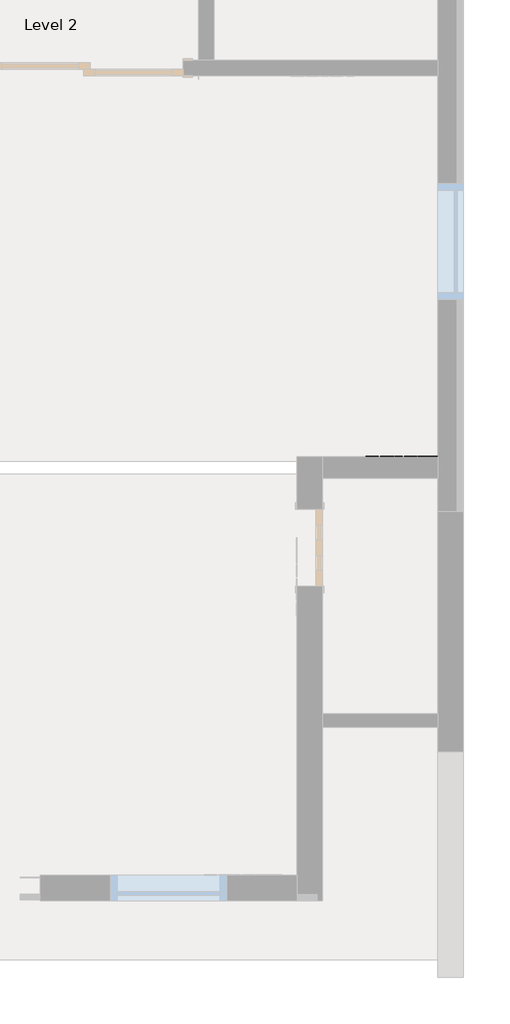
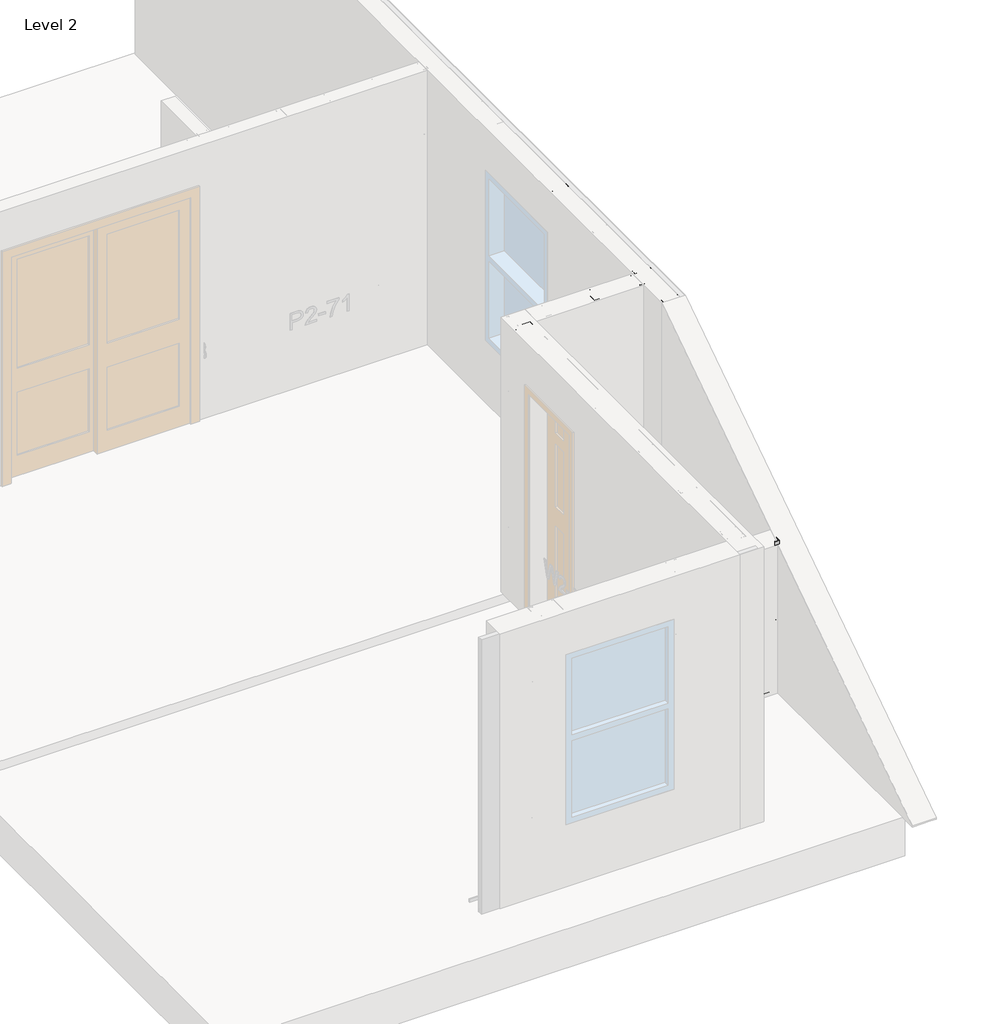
# One storey, part 23 of 46: 9 columns, 3 beams, 2 fasteners.
"""IFC4 building model written with IfcOpenShell, lengths in millimetres."""

from ifc_helpers import new_model, si_unit, point, frame, origin, place, context, project, spatial, circle_curve, ellipse_curve, trimmed, transform, mapped, element, save
from ifc_brep_helpers import plane_surface, extruded_surface, advanced_brep
from components import beam_350nf150_33_cdc529ae, beam_350nf150_33_c6ae7401, beam_550nf150_43_e6c4ef75, column_350nf150_33_f4fa3d8b, column_350nf150_33_2ad03762, column_550nf150_43_e978d052, panellabel_26702ed9, panellabel_6a08c189

model = new_model("IFC4")

# Units and contexts
model_context = context("Model", 3, world=origin())
ifc_project = project(units=[si_unit("LENGTHUNIT", "METRE", prefix="MILLI")], contexts=[model_context])

# Site, building, storey
site = spatial("IfcSite", under=ifc_project)
building = spatial("IfcBuilding", under=site)
storey = spatial("IfcBuildingStorey", under=building, Name="Level 2", Elevation=3060.7)

# Beams
placement = place(None, origin())
beam_350nf150_33_shape = beam_350nf150_33_cdc529ae(model_context)
element("IfcBeam", 1, ObjectType="BIMSF-SSMA-S : 350NF150-33", at=placement, inside=storey, context=model_context, shape_type="MappedRepresentation", body=[
    mapped(beam_350nf150_33_shape, transform((-3698.2100849, 4446.714721, 3994.15), x_axis=(1.0000000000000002, 0.0, 0.0), y_axis=(0.0, 0.0, -1.0000000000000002), z_axis=(0.0, 1.0000000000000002, 0.0))),
])
beam_350nf150_33_2_shape = beam_350nf150_33_c6ae7401(model_context)
element("IfcBeam", 2, ObjectType="BIMSF-SSMA-S : 350NF150-33", at=placement, inside=storey, context=model_context, shape_type="MappedRepresentation", body=[
    mapped(beam_350nf150_33_2_shape, transform((-3302.5257099, 4446.714721, 3076.575), x_axis=(1.0000000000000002, 0.0, 0.0), y_axis=(0.0, 0.0, -1.0000000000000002), z_axis=(0.0, 1.0000000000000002, 0.0))),
])
beam_550nf150_43_shape = beam_550nf150_43_e6c4ef75(model_context)
element("IfcBeam", 3, ObjectType="BIMSF-SSMA-S : 550NF150-43", at=placement, inside=storey, context=model_context, shape_type="MappedRepresentation", body=[
    mapped(beam_550nf150_43_shape, transform((-3768.0600849, 6454.902221, 3076.575), x_axis=(-1.0000000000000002, 0.0, 0.0), y_axis=(0.0, 0.0, -1.0000000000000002), z_axis=(0.0, -1.0000000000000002, 0.0))),
])

# Columns
element("IfcColumn", 4, ObjectType="BIMSF-SSMA-S-Column : 350NF150-33", at=placement, inside=storey, context=model_context, shape_type="AdvancedBrep", body=[
    advanced_brep(
    [(-3211.6413349, 4491.164721, 3061.5929687), (-3211.6413349, 4402.264721, 3061.5929687), (-3249.7413349, 4402.264721, 3061.5929687), (-3249.7413349, 4407.9222367, 3061.5929687), (-3248.8590191, 4407.9222367, 3061.5929687), (-3248.8590191, 4403.1470367, 3061.5929687), (-3212.5236507, 4403.1470367, 3061.5929687), (-3212.5236507, 4490.2824052, 3061.5929687), (-3248.8590191, 4490.2824052, 3061.5929687), (-3248.8590191, 4485.5072052, 3061.5929687), (-3249.7413349, 4485.5072052, 3061.5929687), (-3249.7413349, 4491.164721, 3061.5929687), (-3211.6413349, 4491.164721, 4427.5338969), (-3211.6413349, 4402.264721, 4427.5338969), (-3211.6413349, 4434.014721, 3671.1929687), (-3211.6413349, 4459.414721, 3671.1929687), (-3249.7413349, 4402.264721, 4427.5338969), (-3249.7413349, 4407.9222367, 4427.5338969), (-3248.8590191, 4407.9222367, 4427.5338969), (-3248.8590191, 4403.1470367, 4427.5338969), (-3212.5236507, 4403.1470367, 4427.5338969), (-3212.5236507, 4490.2824052, 4427.5338969), (-3212.5236507, 4459.414721, 3671.1929687), (-3212.5236507, 4434.014721, 3671.1929687), (-3248.8590191, 4490.2824052, 4427.5338969), (-3248.8590191, 4485.5072052, 4427.5338969), (-3249.7413349, 4485.5072052, 4427.5338969), (-3249.7413349, 4491.164721, 4427.5338969)],
    [
        (0, 1),
        (1, 2),
        (2, 3),
        (3, 4),
        (4, 5),
        (5, 6),
        (6, 7),
        (7, 8),
        (8, 9),
        (9, 10),
        (10, 11),
        (11, 0),
        (0, 12),
        (12, 13),
        (13, 1),
        (14, 15, circle_curve(frame((-3211.6413349, 4446.714721, 3671.1929687), z_axis=(-1.0, 0.0, 0.0), x_axis=(0.0, -1.0, 0.0)), 12.7)),
        (15, 14, circle_curve(frame((-3211.6413349, 4446.714721, 3671.1929687), z_axis=(-1.0, 0.0, 0.0), x_axis=(0.0, -1.0, 0.0)), 12.7)),
        (13, 16),
        (16, 2),
        (16, 17),
        (17, 3),
        (17, 18),
        (18, 4),
        (18, 19),
        (19, 5),
        (19, 20),
        (20, 6),
        (20, 21),
        (21, 7),
        (22, 23, circle_curve(frame((-3212.5236507, 4446.714721, 3671.1929687), z_axis=(1.0, 0.0, 0.0), x_axis=(0.0, -1.0, 0.0)), 12.7)),
        (23, 22, circle_curve(frame((-3212.5236507, 4446.714721, 3671.1929688), z_axis=(1.0, 0.0, 0.0), x_axis=(0.0, -1.0, 0.0)), 12.7)),
        (21, 24),
        (24, 8),
        (24, 25),
        (25, 9),
        (25, 26),
        (26, 10),
        (26, 27),
        (27, 11),
        (27, 12),
        (22, 15),
        (14, 23),
    ],
    [
        plane_surface(frame((-3211.6413349, 4491.164721, 3061.5929687), z_axis=(0.0, 0.0, -1.0), x_axis=(1.0, 0.0, 0.0))),
        plane_surface(frame((-3211.6413349, 4402.264721, 4427.5338969), z_axis=(1.0, 0.0, 0.0), x_axis=(0.0, 0.0, -1.0))),
        plane_surface(frame((-3249.7413349, 4402.264721, 4427.5338969), z_axis=(0.0, -1.0, 0.0), x_axis=(0.0, 0.0, -1.0))),
        plane_surface(frame((-3249.7413349, 4407.9222367, 4427.5338969), z_axis=(-1.0, 0.0, 0.0), x_axis=(0.0, 0.0, -1.0))),
        plane_surface(frame((-3248.8590191, 4407.9222367, 4427.5338969), z_axis=(0.0, 1.0, 0.0), x_axis=(0.0, 0.0, -1.0))),
        plane_surface(frame((-3248.8590191, 4403.1470367, 4427.5338969), z_axis=(1.0, 0.0, 0.0), x_axis=(0.0, 0.0, -1.0))),
        plane_surface(frame((-3212.5236507, 4403.1470367, 4427.5338969), z_axis=(0.0, 1.0, 0.0), x_axis=(0.0, 0.0, -1.0))),
        plane_surface(frame((-3212.5236507, 4490.2824052, 4427.5338969), z_axis=(-1.0, 0.0, 0.0), x_axis=(0.0, 0.0, -1.0))),
        plane_surface(frame((-3248.8590191, 4490.2824052, 4427.5338969), z_axis=(0.0, -1.0, 0.0), x_axis=(0.0, 0.0, -1.0))),
        plane_surface(frame((-3248.8590191, 4485.5072052, 4427.5338969), z_axis=(1.0, 0.0, 0.0), x_axis=(0.0, 0.0, -1.0))),
        plane_surface(frame((-3249.7413349, 4485.5072052, 4427.5338969), z_axis=(0.0, -1.0, 0.0), x_axis=(0.0, 0.0, -1.0))),
        plane_surface(frame((-3249.7413349, 4491.164721, 4427.5338969), z_axis=(-1.0, 0.0, 0.0), x_axis=(0.0, 0.0, -1.0))),
        plane_surface(frame((-3211.6413349, 4491.164721, 4427.5338969), z_axis=(0.0, 1.0, 0.0), x_axis=(0.0, 0.0, -1.0))),
        plane_surface(frame((-3211.6413349, 4491.164721, 4427.5338969), z_axis=(0.0, 0.0, 1.0), x_axis=(-1.0, 0.0, 0.0))),
        extruded_surface(trimmed(ellipse_curve(frame((-4596.632263, 4446.714721, 3671.1929688), z_axis=(1.0, 0.0, 0.0), x_axis=(0.0, -1.0, 0.0)), 12.7, 12.7), [point((-4596.632263, 4459.414721, 3671.1929688))], [point((-4596.632263, 4434.014721, 3671.1929688))], True, "CARTESIAN"), (-2731.8818562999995, 0.0, 0.0), 2731.8818562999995),
        extruded_surface(trimmed(ellipse_curve(frame((-4596.632263, 4446.714721, 3671.1929688), z_axis=(1.0, 0.0, 0.0), x_axis=(0.0, -1.0, 0.0)), 12.7, 12.7), [point((-4596.632263, 4434.014721, 3671.1929688))], [point((-4596.632263, 4459.414721, 3671.1929688))], True, "CARTESIAN"), (-2731.8818562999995, 0.0, 0.0), 2731.8818562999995),
    ],
    [
        (0, [[1, 2, 3, 4, 5, 6, 7, 8, 9, 10, 11, 12]]),
        (1, [[-1, 13, 14, 15], [16, 17]]),
        (2, [[-2, -15, 18, 19]]),
        (3, [[-3, -19, 20, 21]]),
        (4, [[-4, -21, 22, 23]]),
        (5, [[-5, -23, 24, 25]]),
        (6, [[-6, -25, 26, 27]]),
        (7, [[-7, -27, 28, 29], [30, 31]]),
        (8, [[-8, -29, 32, 33]]),
        (9, [[-9, -33, 34, 35]]),
        (10, [[-10, -35, 36, 37]]),
        (11, [[-11, -37, 38, 39]]),
        (12, [[-12, -39, 40, -13]]),
        (13, [[-14, -40, -38, -36, -34, -32, -28, -26, -24, -22, -20, -18]]),
        (14, [[41, -16, 42, -30]]),
        (15, [[-41, -31, -42, -17]]),
    ],
),
])
column_350nf150_33_shape = column_350nf150_33_f4fa3d8b(model_context)
element("IfcColumn", 5, ObjectType="BIMSF-SSMA-S-Column : 350NF150-33", at=placement, inside=storey, context=model_context, shape_type="MappedRepresentation", body=[
    mapped(column_350nf150_33_shape, transform((-3381.4122971, 4457.4518459, 0.0), x_axis=(1.0, 0.0, 0.0), y_axis=(0.0, 1.0, 0.0), z_axis=(0.0, 0.0, 1.0))),
])
column_350nf150_33_2_shape = column_350nf150_33_2ad03762(model_context)
element("IfcColumn", 6, ObjectType="BIMSF-SSMA-S-Column : 350NF150-33", at=placement, inside=storey, context=model_context, shape_type="MappedRepresentation", body=[
    mapped(column_350nf150_33_2_shape, transform((-3785.4310471, 4457.4518459, 0.0), x_axis=(1.0, 0.0, 0.0), y_axis=(0.0, 1.0, 0.0), z_axis=(0.0, 0.0, 1.0))),
])
element("IfcColumn", 7, ObjectType="BIMSF-SSMA-S-Column : 550NF150-43", at=placement, inside=storey, context=model_context, shape_type="AdvancedBrep", body=[
    advanced_brep(
    [(-3211.6413349, 6524.752221, 3061.5929687), (-3211.6413349, 6385.052221, 3061.5929687), (-3249.7413349, 6385.052221, 3061.5929687), (-3249.7413349, 6390.9771052, 3061.5929687), (-3248.5916507, 6390.9771052, 3061.5929687), (-3248.5916507, 6386.2019052, 3061.5929687), (-3212.7910191, 6386.2019052, 3061.5929687), (-3212.7910191, 6523.6025367, 3061.5929687), (-3248.5916507, 6523.6025367, 3061.5929687), (-3248.5916507, 6518.8273367, 3061.5929687), (-3249.7413349, 6518.8273367, 3061.5929687), (-3249.7413349, 6524.752221, 3061.5929687), (-3211.6413349, 6524.752221, 5523.6070313), (-3211.6413349, 6385.052221, 5523.6070313), (-3211.6413349, 6442.202221, 3671.1929688), (-3211.6413349, 6467.602221, 3671.1929688), (-3211.6413349, 6442.202221, 4890.3929687), (-3211.6413349, 6467.602221, 4890.3929687), (-3249.7413349, 6385.052221, 5523.6070313), (-3249.7413349, 6390.9771052, 5523.6070313), (-3248.5916507, 6390.9771052, 5523.6070313), (-3248.5916507, 6386.2019052, 5523.6070313), (-3212.7910191, 6386.2019052, 5523.6070313), (-3212.7910191, 6523.6025367, 5523.6070313), (-3212.7910191, 6467.602221, 3671.1929687), (-3212.7910191, 6442.202221, 3671.1929688), (-3212.7910191, 6467.602221, 4890.3929687), (-3212.7910191, 6442.202221, 4890.3929687), (-3248.5916507, 6523.6025367, 5523.6070313), (-3248.5916507, 6518.8273367, 5523.6070313), (-3249.7413349, 6518.8273367, 5523.6070313), (-3249.7413349, 6524.752221, 5523.6070313)],
    [
        (0, 1),
        (1, 2),
        (2, 3),
        (3, 4),
        (4, 5),
        (5, 6),
        (6, 7),
        (7, 8),
        (8, 9),
        (9, 10),
        (10, 11),
        (11, 0),
        (0, 12),
        (12, 13),
        (13, 1),
        (14, 15, circle_curve(frame((-3211.6413349, 6454.902221, 3671.1929687), z_axis=(-1.0, 0.0, 0.0), x_axis=(0.0, -1.0, 0.0)), 12.7)),
        (15, 14, circle_curve(frame((-3211.6413349, 6454.902221, 3671.1929688), z_axis=(-1.0, 0.0, 0.0), x_axis=(0.0, -1.0, 0.0)), 12.7)),
        (16, 17, circle_curve(frame((-3211.6413349, 6454.902221, 4890.3929687), z_axis=(-1.0, 0.0, 0.0), x_axis=(0.0, -1.0, 0.0)), 12.7)),
        (17, 16, circle_curve(frame((-3211.6413349, 6454.902221, 4890.3929687), z_axis=(-1.0, 0.0, 0.0), x_axis=(0.0, -1.0, 0.0)), 12.7)),
        (13, 18),
        (18, 2),
        (18, 19),
        (19, 3),
        (19, 20),
        (20, 4),
        (20, 21),
        (21, 5),
        (21, 22),
        (22, 6),
        (22, 23),
        (23, 7),
        (24, 25, circle_curve(frame((-3212.7910191, 6454.902221, 3671.1929687), z_axis=(1.0, 0.0, 0.0), x_axis=(0.0, -1.0, 0.0)), 12.7)),
        (25, 24, circle_curve(frame((-3212.7910191, 6454.902221, 3671.1929687), z_axis=(1.0, 0.0, 0.0), x_axis=(0.0, -1.0, 0.0)), 12.7)),
        (26, 27, circle_curve(frame((-3212.7910191, 6454.902221, 4890.3929687), z_axis=(1.0, 0.0, 0.0), x_axis=(0.0, -1.0, 0.0)), 12.7)),
        (27, 26, circle_curve(frame((-3212.7910191, 6454.902221, 4890.3929687), z_axis=(1.0, 0.0, 0.0), x_axis=(0.0, -1.0, 0.0)), 12.7)),
        (23, 28),
        (28, 8),
        (28, 29),
        (29, 9),
        (29, 30),
        (30, 10),
        (30, 31),
        (31, 11),
        (31, 12),
        (24, 15),
        (14, 25),
        (26, 17),
        (16, 27),
    ],
    [
        plane_surface(frame((-3211.6413349, 6524.752221, 3061.5929687), z_axis=(0.0, 0.0, -1.0), x_axis=(1.0, 0.0, 0.0))),
        plane_surface(frame((-3211.6413349, 6385.052221, 5523.6070313), z_axis=(1.0, 0.0, 0.0), x_axis=(0.0, 0.0, -1.0))),
        plane_surface(frame((-3249.7413349, 6385.052221, 5523.6070313), z_axis=(0.0, -1.0, 0.0), x_axis=(0.0, 0.0, -1.0))),
        plane_surface(frame((-3249.7413349, 6390.9771052, 5523.6070313), z_axis=(-1.0, 0.0, 0.0), x_axis=(0.0, 0.0, -1.0))),
        plane_surface(frame((-3248.5916507, 6390.9771052, 5523.6070313), z_axis=(0.0, 1.0, 0.0), x_axis=(0.0, 0.0, -1.0))),
        plane_surface(frame((-3248.5916507, 6386.2019052, 5523.6070313), z_axis=(1.0, 0.0, 0.0), x_axis=(0.0, 0.0, -1.0))),
        plane_surface(frame((-3212.7910191, 6386.2019052, 5523.6070313), z_axis=(0.0, 1.0, 0.0), x_axis=(0.0, 0.0, -1.0))),
        plane_surface(frame((-3212.7910191, 6523.6025367, 5523.6070313), z_axis=(-1.0, 0.0, 0.0), x_axis=(0.0, 0.0, -1.0))),
        plane_surface(frame((-3248.5916507, 6523.6025367, 5523.6070313), z_axis=(0.0, -1.0, 0.0), x_axis=(0.0, 0.0, -1.0))),
        plane_surface(frame((-3248.5916507, 6518.8273367, 5523.6070313), z_axis=(1.0, 0.0, 0.0), x_axis=(0.0, 0.0, -1.0))),
        plane_surface(frame((-3249.7413349, 6518.8273367, 5523.6070313), z_axis=(0.0, -1.0, 0.0), x_axis=(0.0, 0.0, -1.0))),
        plane_surface(frame((-3249.7413349, 6524.752221, 5523.6070313), z_axis=(-1.0, 0.0, 0.0), x_axis=(0.0, 0.0, -1.0))),
        plane_surface(frame((-3211.6413349, 6524.752221, 5523.6070313), z_axis=(0.0, 1.0, 0.0), x_axis=(0.0, 0.0, -1.0))),
        plane_surface(frame((-3211.6413349, 6524.752221, 5523.6070313), z_axis=(0.0, 0.0, 1.0), x_axis=(-1.0, 0.0, 0.0))),
        extruded_surface(trimmed(ellipse_curve(frame((-5692.7053974, 6454.902221, 3671.1929688), z_axis=(1.0, 0.0, 0.0), x_axis=(0.0, -1.0, 0.0)), 12.7, 12.7), [point((-5692.7053974, 6467.602221, 3671.1929688))], [point((-5692.7053974, 6442.202221, 3671.1929688))], True, "CARTESIAN"), (-4924.028125, 0.0, 0.0), 4924.028125),
        extruded_surface(trimmed(ellipse_curve(frame((-5692.7053974, 6454.902221, 3671.1929688), z_axis=(1.0, 0.0, 0.0), x_axis=(0.0, -1.0, 0.0)), 12.7, 12.7), [point((-5692.7053974, 6442.202221, 3671.1929688))], [point((-5692.7053974, 6467.602221, 3671.1929688))], True, "CARTESIAN"), (-4924.028125, 0.0, 0.0), 4924.028125),
        extruded_surface(trimmed(ellipse_curve(frame((-5692.7053974, 6454.902221, 4890.3929687), z_axis=(1.0, 0.0, 0.0), x_axis=(0.0, -1.0, 0.0)), 12.7, 12.7), [point((-5692.7053974, 6467.602221, 4890.3929687))], [point((-5692.7053974, 6442.202221, 4890.3929687))], True, "CARTESIAN"), (-4924.028125, 0.0, 0.0), 4924.028125),
        extruded_surface(trimmed(ellipse_curve(frame((-5692.7053974, 6454.902221, 4890.3929687), z_axis=(1.0, 0.0, 0.0), x_axis=(0.0, -1.0, 0.0)), 12.7, 12.7), [point((-5692.7053974, 6442.202221, 4890.3929687))], [point((-5692.7053974, 6467.602221, 4890.3929687))], True, "CARTESIAN"), (-4924.028125, 0.0, 0.0), 4924.028125),
    ],
    [
        (0, [[1, 2, 3, 4, 5, 6, 7, 8, 9, 10, 11, 12]]),
        (1, [[-1, 13, 14, 15], [16, 17], [18, 19]]),
        (2, [[-2, -15, 20, 21]]),
        (3, [[-3, -21, 22, 23]]),
        (4, [[-4, -23, 24, 25]]),
        (5, [[-5, -25, 26, 27]]),
        (6, [[-6, -27, 28, 29]]),
        (7, [[-7, -29, 30, 31], [32, 33], [34, 35]]),
        (8, [[-8, -31, 36, 37]]),
        (9, [[-9, -37, 38, 39]]),
        (10, [[-10, -39, 40, 41]]),
        (11, [[-11, -41, 42, 43]]),
        (12, [[-12, -43, 44, -13]]),
        (13, [[-14, -44, -42, -40, -38, -36, -30, -28, -26, -24, -22, -20]]),
        (14, [[45, -16, 46, -32]]),
        (15, [[-45, -33, -46, -17]]),
        (16, [[47, -18, 48, -34]]),
        (17, [[-47, -35, -48, -19]]),
    ],
),
])
element("IfcColumn", 8, ObjectType="BIMSF-SSMA-S-Column : 550NF150-43", at=placement, inside=storey, context=model_context, shape_type="AdvancedBrep", body=[
    advanced_brep(
    [(-3637.0913349, 6385.052221, 3061.5929687), (-3637.0913349, 6524.752221, 3061.5929687), (-3598.9913349, 6524.752221, 3061.5929687), (-3598.9913349, 6518.8273367, 3061.5929687), (-3600.1410191, 6518.8273367, 3061.5929687), (-3600.1410191, 6523.6025367, 3061.5929687), (-3635.9416507, 6523.6025367, 3061.5929687), (-3635.9416507, 6386.2019052, 3061.5929687), (-3600.1410191, 6386.2019052, 3061.5929687), (-3600.1410191, 6390.9771052, 3061.5929687), (-3598.9913349, 6390.9771052, 3061.5929687), (-3598.9913349, 6385.052221, 3061.5929687), (-3637.0913349, 6385.052221, 5523.6070313), (-3637.0913349, 6524.752221, 5523.6070313), (-3637.0913349, 6467.602221, 3671.1929687), (-3637.0913349, 6442.202221, 3671.1929687), (-3637.0913349, 6467.602221, 4890.3929687), (-3637.0913349, 6442.202221, 4890.3929687), (-3598.9913349, 6524.752221, 5523.6070313), (-3598.9913349, 6518.8273367, 5523.6070313), (-3600.1410191, 6518.8273367, 5523.6070313), (-3600.1410191, 6523.6025367, 5523.6070313), (-3635.9416507, 6523.6025367, 5523.6070313), (-3635.9416507, 6386.2019052, 5523.6070313), (-3635.9416507, 6442.202221, 3671.1929688), (-3635.9416507, 6467.602221, 3671.1929688), (-3635.9416507, 6442.202221, 4890.3929687), (-3635.9416507, 6467.602221, 4890.3929687), (-3600.1410191, 6386.2019052, 5523.6070313), (-3600.1410191, 6390.9771052, 5523.6070313), (-3598.9913349, 6390.9771052, 5523.6070313), (-3598.9913349, 6385.052221, 5523.6070313)],
    [
        (0, 1),
        (1, 2),
        (2, 3),
        (3, 4),
        (4, 5),
        (5, 6),
        (6, 7),
        (7, 8),
        (8, 9),
        (9, 10),
        (10, 11),
        (11, 0),
        (0, 12),
        (12, 13),
        (13, 1),
        (14, 15, circle_curve(frame((-3637.0913349, 6454.902221, 3671.1929687), z_axis=(1.0, 0.0, 0.0), x_axis=(0.0, 1.0, 0.0)), 12.7)),
        (15, 14, circle_curve(frame((-3637.0913349, 6454.902221, 3671.1929687), z_axis=(1.0, 0.0, 0.0), x_axis=(0.0, 1.0, 0.0)), 12.7)),
        (16, 17, circle_curve(frame((-3637.0913349, 6454.902221, 4890.3929687), z_axis=(1.0, 0.0, 0.0), x_axis=(0.0, 1.0, 0.0)), 12.7)),
        (17, 16, circle_curve(frame((-3637.0913349, 6454.902221, 4890.3929687), z_axis=(1.0, 0.0, 0.0), x_axis=(0.0, 1.0, 0.0)), 12.7)),
        (13, 18),
        (18, 2),
        (18, 19),
        (19, 3),
        (19, 20),
        (20, 4),
        (20, 21),
        (21, 5),
        (21, 22),
        (22, 6),
        (22, 23),
        (23, 7),
        (24, 25, circle_curve(frame((-3635.9416507, 6454.902221, 3671.1929687), z_axis=(-1.0, 0.0, 0.0), x_axis=(0.0, 1.0, 0.0)), 12.7)),
        (25, 24, circle_curve(frame((-3635.9416507, 6454.902221, 3671.1929687), z_axis=(-1.0, 0.0, 0.0), x_axis=(0.0, 1.0, 0.0)), 12.7)),
        (26, 27, circle_curve(frame((-3635.9416507, 6454.902221, 4890.3929687), z_axis=(-1.0, 0.0, 0.0), x_axis=(0.0, 1.0, 0.0)), 12.7)),
        (27, 26, circle_curve(frame((-3635.9416507, 6454.902221, 4890.3929687), z_axis=(-1.0, 0.0, 0.0), x_axis=(0.0, 1.0, 0.0)), 12.7)),
        (23, 28),
        (28, 8),
        (28, 29),
        (29, 9),
        (29, 30),
        (30, 10),
        (30, 31),
        (31, 11),
        (31, 12),
        (24, 15),
        (14, 25),
        (26, 17),
        (16, 27),
    ],
    [
        plane_surface(frame((-3637.0913349, 6385.052221, 3061.5929687), z_axis=(0.0, 0.0, -1.0), x_axis=(-1.0, 0.0, 0.0))),
        plane_surface(frame((-3637.0913349, 6524.752221, 5523.6070313), z_axis=(-1.0, 0.0, 0.0), x_axis=(0.0, 0.0, -1.0))),
        plane_surface(frame((-3598.9913349, 6524.752221, 5523.6070313), z_axis=(0.0, 1.0, 0.0), x_axis=(0.0, 0.0, -1.0))),
        plane_surface(frame((-3598.9913349, 6518.8273367, 5523.6070313), z_axis=(1.0, 0.0, 0.0), x_axis=(0.0, 0.0, -1.0))),
        plane_surface(frame((-3600.1410191, 6518.8273367, 5523.6070313), z_axis=(0.0, -1.0, 0.0), x_axis=(0.0, 0.0, -1.0))),
        plane_surface(frame((-3600.1410191, 6523.6025367, 5523.6070313), z_axis=(-1.0, 0.0, 0.0), x_axis=(0.0, 0.0, -1.0))),
        plane_surface(frame((-3635.9416507, 6523.6025367, 5523.6070313), z_axis=(0.0, -1.0, 0.0), x_axis=(0.0, 0.0, -1.0))),
        plane_surface(frame((-3635.9416507, 6386.2019052, 5523.6070313), z_axis=(1.0, 0.0, 0.0), x_axis=(0.0, 0.0, -1.0))),
        plane_surface(frame((-3600.1410191, 6386.2019052, 5523.6070313), z_axis=(0.0, 1.0, 0.0), x_axis=(0.0, 0.0, -1.0))),
        plane_surface(frame((-3600.1410191, 6390.9771052, 5523.6070313), z_axis=(-1.0, 0.0, 0.0), x_axis=(0.0, 0.0, -1.0))),
        plane_surface(frame((-3598.9913349, 6390.9771052, 5523.6070313), z_axis=(0.0, 1.0, 0.0), x_axis=(0.0, 0.0, -1.0))),
        plane_surface(frame((-3598.9913349, 6385.052221, 5523.6070313), z_axis=(1.0, 0.0, 0.0), x_axis=(0.0, 0.0, -1.0))),
        plane_surface(frame((-3637.0913349, 6385.052221, 5523.6070313), z_axis=(0.0, -1.0, 0.0), x_axis=(0.0, 0.0, -1.0))),
        plane_surface(frame((-3637.0913349, 6385.052221, 5523.6070313), z_axis=(0.0, 0.0, 1.0), x_axis=(1.0, 0.0, 0.0))),
        extruded_surface(trimmed(ellipse_curve(frame((-1156.0272724, 6454.902221, 3671.1929688), z_axis=(-1.0, 0.0, 0.0), x_axis=(0.0, 1.0, 0.0)), 12.7, 12.7), [point((-1156.0272724, 6442.202221, 3671.1929688))], [point((-1156.0272724, 6467.602221, 3671.1929688))], True, "CARTESIAN"), (4924.028125, 0.0, 0.0), 4924.028125),
        extruded_surface(trimmed(ellipse_curve(frame((-1156.0272724, 6454.902221, 3671.1929688), z_axis=(-1.0, 0.0, 0.0), x_axis=(0.0, 1.0, 0.0)), 12.7, 12.7), [point((-1156.0272724, 6467.602221, 3671.1929688))], [point((-1156.0272724, 6442.202221, 3671.1929688))], True, "CARTESIAN"), (4924.028125, 0.0, 0.0), 4924.028125),
        extruded_surface(trimmed(ellipse_curve(frame((-1156.0272724, 6454.902221, 4890.3929687), z_axis=(-1.0, 0.0, 0.0), x_axis=(0.0, 1.0, 0.0)), 12.7, 12.7), [point((-1156.0272724, 6442.202221, 4890.3929687))], [point((-1156.0272724, 6467.602221, 4890.3929687))], True, "CARTESIAN"), (4924.028125, 0.0, 0.0), 4924.028125),
        extruded_surface(trimmed(ellipse_curve(frame((-1156.0272724, 6454.902221, 4890.3929687), z_axis=(-1.0, 0.0, 0.0), x_axis=(0.0, 1.0, 0.0)), 12.7, 12.7), [point((-1156.0272724, 6467.602221, 4890.3929687))], [point((-1156.0272724, 6442.202221, 4890.3929687))], True, "CARTESIAN"), (4924.028125, 0.0, 0.0), 4924.028125),
    ],
    [
        (0, [[1, 2, 3, 4, 5, 6, 7, 8, 9, 10, 11, 12]]),
        (1, [[-1, 13, 14, 15], [16, 17], [18, 19]]),
        (2, [[-2, -15, 20, 21]]),
        (3, [[-3, -21, 22, 23]]),
        (4, [[-4, -23, 24, 25]]),
        (5, [[-5, -25, 26, 27]]),
        (6, [[-6, -27, 28, 29]]),
        (7, [[-7, -29, 30, 31], [32, 33], [34, 35]]),
        (8, [[-8, -31, 36, 37]]),
        (9, [[-9, -37, 38, 39]]),
        (10, [[-10, -39, 40, 41]]),
        (11, [[-11, -41, 42, 43]]),
        (12, [[-12, -43, 44, -13]]),
        (13, [[-14, -44, -42, -40, -38, -36, -30, -28, -26, -24, -22, -20]]),
        (14, [[45, -16, 46, -32]]),
        (15, [[-45, -33, -46, -17]]),
        (16, [[47, -18, 48, -34]]),
        (17, [[-47, -35, -48, -19]]),
    ],
),
])
element("IfcColumn", 9, ObjectType="BIMSF-SSMA-S-Column : 550NF150-43", at=placement, inside=storey, context=model_context, shape_type="AdvancedBrep", body=[
    advanced_brep(
    [(-3211.6413349, 7785.7332511, 3061.5929687), (-3071.9413349, 7785.7332511, 3061.5929687), (-3071.9413349, 7747.6332511, 3061.5929687), (-3077.8662191, 7747.6332511, 3061.5929687), (-3077.8662191, 7748.7829353, 3061.5929687), (-3073.0910191, 7748.7829353, 3061.5929687), (-3073.0910191, 7784.5835669, 3061.5929687), (-3210.4916507, 7784.5835669, 3061.5929687), (-3210.4916507, 7748.7829353, 3061.5929687), (-3205.7164507, 7748.7829353, 3061.5929687), (-3205.7164507, 7747.6332511, 3061.5929687), (-3211.6413349, 7747.6332511, 3061.5929687), (-3211.6413349, 7785.7332511, 5523.6070313), (-3071.9413349, 7785.7332511, 5523.6070313), (-3129.0913349, 7785.7332511, 3671.1929688), (-3154.4913349, 7785.7332511, 3671.1929688), (-3129.0913349, 7785.7332511, 4890.3929687), (-3154.4913349, 7785.7332511, 4890.3929687), (-3071.9413349, 7747.6332511, 5523.6070313), (-3077.8662191, 7747.6332511, 5523.6070313), (-3077.8662191, 7748.7829353, 5523.6070313), (-3073.0910191, 7748.7829353, 5523.6070313), (-3073.0910191, 7784.5835669, 5523.6070313), (-3210.4916507, 7784.5835669, 5523.6070313), (-3154.4913349, 7784.5835669, 3671.1929688), (-3129.0913349, 7784.5835669, 3671.1929688), (-3154.4913349, 7784.5835669, 4890.3929687), (-3129.0913349, 7784.5835669, 4890.3929687), (-3210.4916507, 7748.7829353, 5523.6070313), (-3205.7164507, 7748.7829353, 5523.6070313), (-3205.7164507, 7747.6332511, 5523.6070313), (-3211.6413349, 7747.6332511, 5523.6070313)],
    [
        (0, 1),
        (1, 2),
        (2, 3),
        (3, 4),
        (4, 5),
        (5, 6),
        (6, 7),
        (7, 8),
        (8, 9),
        (9, 10),
        (10, 11),
        (11, 0),
        (0, 12),
        (12, 13),
        (13, 1),
        (14, 15, circle_curve(frame((-3141.7913349, 7785.7332511, 3671.1929688), z_axis=(0.0, -1.0, 0.0), x_axis=(1.0, 0.0, 0.0)), 12.7)),
        (15, 14, circle_curve(frame((-3141.7913349, 7785.7332511, 3671.1929687), z_axis=(0.0, -1.0, 0.0), x_axis=(1.0, 0.0, 0.0)), 12.7)),
        (16, 17, circle_curve(frame((-3141.7913349, 7785.7332511, 4890.3929687), z_axis=(0.0, -1.0, 0.0), x_axis=(1.0, 0.0, 0.0)), 12.7)),
        (17, 16, circle_curve(frame((-3141.7913349, 7785.7332511, 4890.3929687), z_axis=(0.0, -1.0, 0.0), x_axis=(1.0, 0.0, 0.0)), 12.7)),
        (13, 18),
        (18, 2),
        (18, 19),
        (19, 3),
        (19, 20),
        (20, 4),
        (20, 21),
        (21, 5),
        (21, 22),
        (22, 6),
        (22, 23),
        (23, 7),
        (24, 25, circle_curve(frame((-3141.7913349, 7784.5835669, 3671.1929687), z_axis=(0.0, 1.0, 0.0), x_axis=(1.0, 0.0, 0.0)), 12.7)),
        (25, 24, circle_curve(frame((-3141.7913349, 7784.5835669, 3671.1929687), z_axis=(0.0, 1.0, 0.0), x_axis=(1.0, 0.0, 0.0)), 12.7)),
        (26, 27, circle_curve(frame((-3141.7913349, 7784.5835669, 4890.3929687), z_axis=(0.0, 1.0, 0.0), x_axis=(1.0, 0.0, 0.0)), 12.7)),
        (27, 26, circle_curve(frame((-3141.7913349, 7784.5835669, 4890.3929687), z_axis=(0.0, 1.0, 0.0), x_axis=(1.0, 0.0, 0.0)), 12.7)),
        (23, 28),
        (28, 8),
        (28, 29),
        (29, 9),
        (29, 30),
        (30, 10),
        (30, 31),
        (31, 11),
        (31, 12),
        (24, 15),
        (14, 25),
        (26, 17),
        (16, 27),
    ],
    [
        plane_surface(frame((-3211.6413349, 7785.7332511, 3061.5929687), z_axis=(0.0, 0.0, -1.0), x_axis=(0.0, 1.0, 0.0))),
        plane_surface(frame((-3071.9413349, 7785.7332511, 5523.6070313), z_axis=(0.0, 1.0, 0.0), x_axis=(0.0, 0.0, -1.0))),
        plane_surface(frame((-3071.9413349, 7747.6332511, 5523.6070313), z_axis=(1.0, 0.0, 0.0), x_axis=(0.0, 0.0, -1.0))),
        plane_surface(frame((-3077.8662191, 7747.6332511, 5523.6070313), z_axis=(0.0, -1.0, 0.0), x_axis=(0.0, 0.0, -1.0))),
        plane_surface(frame((-3077.8662191, 7748.7829353, 5523.6070313), z_axis=(-1.0, 0.0, 0.0), x_axis=(0.0, 0.0, -1.0))),
        plane_surface(frame((-3073.0910191, 7748.7829353, 5523.6070313), z_axis=(0.0, 1.0, 0.0), x_axis=(0.0, 0.0, -1.0))),
        plane_surface(frame((-3073.0910191, 7784.5835669, 5523.6070313), z_axis=(-1.0, 0.0, 0.0), x_axis=(0.0, 0.0, -1.0))),
        plane_surface(frame((-3210.4916507, 7784.5835669, 5523.6070313), z_axis=(0.0, -1.0, 0.0), x_axis=(0.0, 0.0, -1.0))),
        plane_surface(frame((-3210.4916507, 7748.7829353, 5523.6070313), z_axis=(1.0, 0.0, 0.0), x_axis=(0.0, 0.0, -1.0))),
        plane_surface(frame((-3205.7164507, 7748.7829353, 5523.6070313), z_axis=(0.0, 1.0, 0.0), x_axis=(0.0, 0.0, -1.0))),
        plane_surface(frame((-3205.7164507, 7747.6332511, 5523.6070313), z_axis=(1.0, 0.0, 0.0), x_axis=(0.0, 0.0, -1.0))),
        plane_surface(frame((-3211.6413349, 7747.6332511, 5523.6070313), z_axis=(0.0, -1.0, 0.0), x_axis=(0.0, 0.0, -1.0))),
        plane_surface(frame((-3211.6413349, 7785.7332511, 5523.6070313), z_axis=(-1.0, 0.0, 0.0), x_axis=(0.0, 0.0, -1.0))),
        plane_surface(frame((-3211.6413349, 7785.7332511, 5523.6070313), z_axis=(0.0, 0.0, 1.0), x_axis=(0.0, -1.0, 0.0))),
        extruded_surface(trimmed(ellipse_curve(frame((-3141.7913349, 5304.6691886, 3671.1929688), z_axis=(0.0, 1.0, 0.0), x_axis=(1.0, 0.0, 0.0)), 12.7, 12.7), [point((-3154.4913349, 5304.6691886, 3671.1929688))], [point((-3129.0913349, 5304.6691886, 3671.1929688))], True, "CARTESIAN"), (0.0, -4924.028125, 0.0), 4924.028125),
        extruded_surface(trimmed(ellipse_curve(frame((-3141.7913349, 5304.6691886, 3671.1929688), z_axis=(0.0, 1.0, 0.0), x_axis=(1.0, 0.0, 0.0)), 12.7, 12.7), [point((-3129.0913349, 5304.6691886, 3671.1929688))], [point((-3154.4913349, 5304.6691886, 3671.1929688))], True, "CARTESIAN"), (0.0, -4924.028125, 0.0), 4924.028125),
        extruded_surface(trimmed(ellipse_curve(frame((-3141.7913349, 5304.6691886, 4890.3929687), z_axis=(0.0, 1.0, 0.0), x_axis=(1.0, 0.0, 0.0)), 12.7, 12.7), [point((-3154.4913349, 5304.6691886, 4890.3929687))], [point((-3129.0913349, 5304.6691886, 4890.3929687))], True, "CARTESIAN"), (0.0, -4924.028125, 0.0), 4924.028125),
        extruded_surface(trimmed(ellipse_curve(frame((-3141.7913349, 5304.6691886, 4890.3929687), z_axis=(0.0, 1.0, 0.0), x_axis=(1.0, 0.0, 0.0)), 12.7, 12.7), [point((-3129.0913349, 5304.6691886, 4890.3929687))], [point((-3154.4913349, 5304.6691886, 4890.3929687))], True, "CARTESIAN"), (0.0, -4924.028125, 0.0), 4924.028125),
    ],
    [
        (0, [[1, 2, 3, 4, 5, 6, 7, 8, 9, 10, 11, 12]]),
        (1, [[-1, 13, 14, 15], [16, 17], [18, 19]]),
        (2, [[-2, -15, 20, 21]]),
        (3, [[-3, -21, 22, 23]]),
        (4, [[-4, -23, 24, 25]]),
        (5, [[-5, -25, 26, 27]]),
        (6, [[-6, -27, 28, 29]]),
        (7, [[-7, -29, 30, 31], [32, 33], [34, 35]]),
        (8, [[-8, -31, 36, 37]]),
        (9, [[-9, -37, 38, 39]]),
        (10, [[-10, -39, 40, 41]]),
        (11, [[-11, -41, 42, 43]]),
        (12, [[-12, -43, 44, -13]]),
        (13, [[-14, -44, -42, -40, -38, -36, -30, -28, -26, -24, -22, -20]]),
        (14, [[45, -16, 46, -32]]),
        (15, [[-45, -33, -46, -17]]),
        (16, [[47, -18, 48, -34]]),
        (17, [[-47, -35, -48, -19]]),
    ],
),
])
element("IfcColumn", 10, ObjectType="BIMSF-SSMA-S-Column : 550NF150-43", at=placement, inside=storey, context=model_context, shape_type="AdvancedBrep", body=[
    advanced_brep(
    [(-3071.9413349, 6104.3914974, 3061.5929687), (-3211.6413349, 6104.3914974, 3061.5929687), (-3211.6413349, 6142.4914974, 3061.5929687), (-3205.7164507, 6142.4914974, 3061.5929687), (-3205.7164507, 6141.3418132, 3061.5929687), (-3210.4916507, 6141.3418132, 3061.5929687), (-3210.4916507, 6105.5411816, 3061.5929687), (-3073.0910191, 6105.5411816, 3061.5929687), (-3073.0910191, 6141.3418132, 3061.5929687), (-3077.8662191, 6141.3418132, 3061.5929687), (-3077.8662191, 6142.4914974, 3061.5929687), (-3071.9413349, 6142.4914974, 3061.5929687), (-3071.9413349, 6104.3914974, 5523.6070313), (-3211.6413349, 6104.3914974, 5523.6070313), (-3154.4913349, 6104.3914974, 3671.1929687), (-3129.0913349, 6104.3914974, 3671.1929687), (-3154.4913349, 6104.3914974, 4890.3929687), (-3129.0913349, 6104.3914974, 4890.3929687), (-3211.6413349, 6142.4914974, 5523.6070313), (-3205.7164507, 6142.4914974, 5523.6070313), (-3205.7164507, 6141.3418132, 5523.6070313), (-3210.4916507, 6141.3418132, 5523.6070313), (-3210.4916507, 6105.5411816, 5523.6070313), (-3073.0910191, 6105.5411816, 5523.6070313), (-3129.0913349, 6105.5411816, 3671.1929688), (-3154.4913349, 6105.5411816, 3671.1929688), (-3129.0913349, 6105.5411816, 4890.3929687), (-3154.4913349, 6105.5411816, 4890.3929687), (-3073.0910191, 6141.3418132, 5523.6070313), (-3077.8662191, 6141.3418132, 5523.6070313), (-3077.8662191, 6142.4914974, 5523.6070313), (-3071.9413349, 6142.4914974, 5523.6070313)],
    [
        (0, 1),
        (1, 2),
        (2, 3),
        (3, 4),
        (4, 5),
        (5, 6),
        (6, 7),
        (7, 8),
        (8, 9),
        (9, 10),
        (10, 11),
        (11, 0),
        (0, 12),
        (12, 13),
        (13, 1),
        (14, 15, circle_curve(frame((-3141.7913349, 6104.3914974, 3671.1929688), z_axis=(0.0, 1.0, 0.0), x_axis=(-1.0, 0.0, 0.0)), 12.7)),
        (15, 14, circle_curve(frame((-3141.7913349, 6104.3914974, 3671.1929688), z_axis=(0.0, 1.0, 0.0), x_axis=(-1.0, 0.0, 0.0)), 12.7)),
        (16, 17, circle_curve(frame((-3141.7913349, 6104.3914974, 4890.3929687), z_axis=(0.0, 1.0, 0.0), x_axis=(-1.0, 0.0, 0.0)), 12.7)),
        (17, 16, circle_curve(frame((-3141.7913349, 6104.3914974, 4890.3929687), z_axis=(0.0, 1.0, 0.0), x_axis=(-1.0, 0.0, 0.0)), 12.7)),
        (13, 18),
        (18, 2),
        (18, 19),
        (19, 3),
        (19, 20),
        (20, 4),
        (20, 21),
        (21, 5),
        (21, 22),
        (22, 6),
        (22, 23),
        (23, 7),
        (24, 25, circle_curve(frame((-3141.7913349, 6105.5411816, 3671.1929688), z_axis=(0.0, -1.0, 0.0), x_axis=(-1.0, 0.0, 0.0)), 12.7)),
        (25, 24, circle_curve(frame((-3141.7913349, 6105.5411816, 3671.1929688), z_axis=(0.0, -1.0, 0.0), x_axis=(-1.0, 0.0, 0.0)), 12.7)),
        (26, 27, circle_curve(frame((-3141.7913349, 6105.5411816, 4890.3929687), z_axis=(0.0, -1.0, 0.0), x_axis=(-1.0, 0.0, 0.0)), 12.7)),
        (27, 26, circle_curve(frame((-3141.7913349, 6105.5411816, 4890.3929687), z_axis=(0.0, -1.0, 0.0), x_axis=(-1.0, 0.0, 0.0)), 12.7)),
        (23, 28),
        (28, 8),
        (28, 29),
        (29, 9),
        (29, 30),
        (30, 10),
        (30, 31),
        (31, 11),
        (31, 12),
        (24, 15),
        (14, 25),
        (26, 17),
        (16, 27),
    ],
    [
        plane_surface(frame((-3071.9413349, 6104.3914974, 3061.5929687), z_axis=(0.0, 0.0, -1.0), x_axis=(0.0, -1.0, 0.0))),
        plane_surface(frame((-3211.6413349, 6104.3914974, 5523.6070313), z_axis=(0.0, -1.0, 0.0), x_axis=(0.0, 0.0, -1.0))),
        plane_surface(frame((-3211.6413349, 6142.4914974, 5523.6070313), z_axis=(-1.0, 0.0, 0.0), x_axis=(0.0, 0.0, -1.0))),
        plane_surface(frame((-3205.7164507, 6142.4914974, 5523.6070313), z_axis=(0.0, 1.0, 0.0), x_axis=(0.0, 0.0, -1.0))),
        plane_surface(frame((-3205.7164507, 6141.3418132, 5523.6070313), z_axis=(1.0, 0.0, 0.0), x_axis=(0.0, 0.0, -1.0))),
        plane_surface(frame((-3210.4916507, 6141.3418132, 5523.6070313), z_axis=(0.0, -1.0, 0.0), x_axis=(0.0, 0.0, -1.0))),
        plane_surface(frame((-3210.4916507, 6105.5411816, 5523.6070313), z_axis=(1.0, 0.0, 0.0), x_axis=(0.0, 0.0, -1.0))),
        plane_surface(frame((-3073.0910191, 6105.5411816, 5523.6070313), z_axis=(0.0, 1.0, 0.0), x_axis=(0.0, 0.0, -1.0))),
        plane_surface(frame((-3073.0910191, 6141.3418132, 5523.6070313), z_axis=(-1.0, 0.0, 0.0), x_axis=(0.0, 0.0, -1.0))),
        plane_surface(frame((-3077.8662191, 6141.3418132, 5523.6070313), z_axis=(0.0, -1.0, 0.0), x_axis=(0.0, 0.0, -1.0))),
        plane_surface(frame((-3077.8662191, 6142.4914974, 5523.6070313), z_axis=(-1.0, 0.0, 0.0), x_axis=(0.0, 0.0, -1.0))),
        plane_surface(frame((-3071.9413349, 6142.4914974, 5523.6070313), z_axis=(0.0, 1.0, 0.0), x_axis=(0.0, 0.0, -1.0))),
        plane_surface(frame((-3071.9413349, 6104.3914974, 5523.6070313), z_axis=(1.0, 0.0, 0.0), x_axis=(0.0, 0.0, -1.0))),
        plane_surface(frame((-3071.9413349, 6104.3914974, 5523.6070313), z_axis=(0.0, 0.0, 1.0), x_axis=(0.0, 1.0, 0.0))),
        extruded_surface(trimmed(ellipse_curve(frame((-3141.7913349, 8585.4555599, 3671.1929688), z_axis=(0.0, -1.0, 0.0), x_axis=(-1.0, 0.0, 0.0)), 12.7, 12.7), [point((-3129.0913349, 8585.4555599, 3671.1929688))], [point((-3154.4913349, 8585.4555599, 3671.1929688))], True, "CARTESIAN"), (0.0, 4924.028125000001, 0.0), 4924.028125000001),
        extruded_surface(trimmed(ellipse_curve(frame((-3141.7913349, 8585.4555599, 3671.1929688), z_axis=(0.0, -1.0, 0.0), x_axis=(-1.0, 0.0, 0.0)), 12.7, 12.7), [point((-3154.4913349, 8585.4555599, 3671.1929688))], [point((-3129.0913349, 8585.4555599, 3671.1929688))], True, "CARTESIAN"), (0.0, 4924.028125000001, 0.0), 4924.028125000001),
        extruded_surface(trimmed(ellipse_curve(frame((-3141.7913349, 8585.4555599, 4890.3929687), z_axis=(0.0, -1.0, 0.0), x_axis=(-1.0, 0.0, 0.0)), 12.7, 12.7), [point((-3129.0913349, 8585.4555599, 4890.3929687))], [point((-3154.4913349, 8585.4555599, 4890.3929687))], True, "CARTESIAN"), (0.0, 4924.028125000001, 0.0), 4924.028125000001),
        extruded_surface(trimmed(ellipse_curve(frame((-3141.7913349, 8585.4555599, 4890.3929687), z_axis=(0.0, -1.0, 0.0), x_axis=(-1.0, 0.0, 0.0)), 12.7, 12.7), [point((-3154.4913349, 8585.4555599, 4890.3929687))], [point((-3129.0913349, 8585.4555599, 4890.3929687))], True, "CARTESIAN"), (0.0, 4924.028125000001, 0.0), 4924.028125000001),
    ],
    [
        (0, [[1, 2, 3, 4, 5, 6, 7, 8, 9, 10, 11, 12]]),
        (1, [[-1, 13, 14, 15], [16, 17], [18, 19]]),
        (2, [[-2, -15, 20, 21]]),
        (3, [[-3, -21, 22, 23]]),
        (4, [[-4, -23, 24, 25]]),
        (5, [[-5, -25, 26, 27]]),
        (6, [[-6, -27, 28, 29]]),
        (7, [[-7, -29, 30, 31], [32, 33], [34, 35]]),
        (8, [[-8, -31, 36, 37]]),
        (9, [[-9, -37, 38, 39]]),
        (10, [[-10, -39, 40, 41]]),
        (11, [[-11, -41, 42, 43]]),
        (12, [[-12, -43, 44, -13]]),
        (13, [[-14, -44, -42, -40, -38, -36, -30, -28, -26, -24, -22, -20]]),
        (14, [[45, -16, 46, -32]]),
        (15, [[-45, -33, -46, -17]]),
        (16, [[47, -18, 48, -34]]),
        (17, [[-47, -35, -48, -19]]),
    ],
),
])
element("IfcColumn", 11, ObjectType="BIMSF-SSMA-S-Column : 550NF150-43", at=placement, inside=storey, context=model_context, shape_type="AdvancedBrep", body=[
    advanced_brep(
    [(-4324.4788349, 6385.052221, 3061.5929687), (-4184.7788349, 6385.052221, 3061.5929687), (-4184.7788349, 6346.952221, 3061.5929687), (-4190.7037191, 6346.952221, 3061.5929687), (-4190.7037191, 6348.1019052, 3061.5929687), (-4185.9285191, 6348.1019052, 3061.5929687), (-4185.9285191, 6383.9025367, 3061.5929687), (-4323.3291507, 6383.9025367, 3061.5929687), (-4323.3291507, 6348.1019052, 3061.5929687), (-4318.5539507, 6348.1019052, 3061.5929687), (-4318.5539507, 6346.952221, 3061.5929687), (-4324.4788349, 6346.952221, 3061.5929687), (-4324.4788349, 6385.052221, 5523.6070313), (-4184.7788349, 6385.052221, 5523.6070313), (-4241.9288349, 6385.052221, 3671.1929687), (-4267.3288349, 6385.052221, 3671.1929687), (-4241.9288349, 6385.052221, 4890.3929687), (-4267.3288349, 6385.052221, 4890.3929687), (-4184.7788349, 6346.952221, 5523.6070313), (-4190.7037191, 6346.952221, 5523.6070313), (-4190.7037191, 6348.1019052, 5523.6070313), (-4185.9285191, 6348.1019052, 5523.6070313), (-4185.9285191, 6383.9025367, 5523.6070313), (-4323.3291507, 6383.9025367, 5523.6070313), (-4267.3288349, 6383.9025367, 3671.1929688), (-4241.9288349, 6383.9025367, 3671.1929688), (-4267.3288349, 6383.9025367, 4890.3929687), (-4241.9288349, 6383.9025367, 4890.3929687), (-4323.3291507, 6348.1019052, 5523.6070313), (-4318.5539507, 6348.1019052, 5523.6070313), (-4318.5539507, 6346.952221, 5523.6070313), (-4324.4788349, 6346.952221, 5523.6070313)],
    [
        (0, 1),
        (1, 2),
        (2, 3),
        (3, 4),
        (4, 5),
        (5, 6),
        (6, 7),
        (7, 8),
        (8, 9),
        (9, 10),
        (10, 11),
        (11, 0),
        (0, 12),
        (12, 13),
        (13, 1),
        (14, 15, circle_curve(frame((-4254.6288349, 6385.052221, 3671.1929687), z_axis=(0.0, -1.0, 0.0), x_axis=(1.0, 0.0, 0.0)), 12.7)),
        (15, 14, circle_curve(frame((-4254.6288349, 6385.052221, 3671.1929687), z_axis=(0.0, -1.0, 0.0), x_axis=(1.0, 0.0, 0.0)), 12.7)),
        (16, 17, circle_curve(frame((-4254.6288349, 6385.052221, 4890.3929687), z_axis=(0.0, -1.0, 0.0), x_axis=(1.0, 0.0, 0.0)), 12.7)),
        (17, 16, circle_curve(frame((-4254.6288349, 6385.052221, 4890.3929687), z_axis=(0.0, -1.0, 0.0), x_axis=(1.0, 0.0, 0.0)), 12.7)),
        (13, 18),
        (18, 2),
        (18, 19),
        (19, 3),
        (19, 20),
        (20, 4),
        (20, 21),
        (21, 5),
        (21, 22),
        (22, 6),
        (22, 23),
        (23, 7),
        (24, 25, circle_curve(frame((-4254.6288349, 6383.9025367, 3671.1929687), z_axis=(0.0, 1.0, 0.0), x_axis=(1.0, 0.0, 0.0)), 12.7)),
        (25, 24, circle_curve(frame((-4254.6288349, 6383.9025367, 3671.1929687), z_axis=(0.0, 1.0, 0.0), x_axis=(1.0, 0.0, 0.0)), 12.7)),
        (26, 27, circle_curve(frame((-4254.6288349, 6383.9025367, 4890.3929687), z_axis=(0.0, 1.0, 0.0), x_axis=(1.0, 0.0, 0.0)), 12.7)),
        (27, 26, circle_curve(frame((-4254.6288349, 6383.9025367, 4890.3929687), z_axis=(0.0, 1.0, 0.0), x_axis=(1.0, 0.0, 0.0)), 12.7)),
        (23, 28),
        (28, 8),
        (28, 29),
        (29, 9),
        (29, 30),
        (30, 10),
        (30, 31),
        (31, 11),
        (31, 12),
        (24, 15),
        (14, 25),
        (26, 17),
        (16, 27),
    ],
    [
        plane_surface(frame((-4324.4788349, 6385.052221, 3061.5929687), z_axis=(0.0, 0.0, -1.0), x_axis=(0.0, 1.0, 0.0))),
        plane_surface(frame((-4184.7788349, 6385.052221, 5523.6070313), z_axis=(0.0, 1.0, 0.0), x_axis=(0.0, 0.0, -1.0))),
        plane_surface(frame((-4184.7788349, 6346.952221, 5523.6070313), z_axis=(1.0, 0.0, 0.0), x_axis=(0.0, 0.0, -1.0))),
        plane_surface(frame((-4190.7037191, 6346.952221, 5523.6070313), z_axis=(0.0, -1.0, 0.0), x_axis=(0.0, 0.0, -1.0))),
        plane_surface(frame((-4190.7037191, 6348.1019052, 5523.6070313), z_axis=(-1.0, 0.0, 0.0), x_axis=(0.0, 0.0, -1.0))),
        plane_surface(frame((-4185.9285191, 6348.1019052, 5523.6070313), z_axis=(0.0, 1.0, 0.0), x_axis=(0.0, 0.0, -1.0))),
        plane_surface(frame((-4185.9285191, 6383.9025367, 5523.6070313), z_axis=(-1.0, 0.0, 0.0), x_axis=(0.0, 0.0, -1.0))),
        plane_surface(frame((-4323.3291507, 6383.9025367, 5523.6070313), z_axis=(0.0, -1.0, 0.0), x_axis=(0.0, 0.0, -1.0))),
        plane_surface(frame((-4323.3291507, 6348.1019052, 5523.6070313), z_axis=(1.0, 0.0, 0.0), x_axis=(0.0, 0.0, -1.0))),
        plane_surface(frame((-4318.5539507, 6348.1019052, 5523.6070313), z_axis=(0.0, 1.0, 0.0), x_axis=(0.0, 0.0, -1.0))),
        plane_surface(frame((-4318.5539507, 6346.952221, 5523.6070313), z_axis=(1.0, 0.0, 0.0), x_axis=(0.0, 0.0, -1.0))),
        plane_surface(frame((-4324.4788349, 6346.952221, 5523.6070313), z_axis=(0.0, -1.0, 0.0), x_axis=(0.0, 0.0, -1.0))),
        plane_surface(frame((-4324.4788349, 6385.052221, 5523.6070313), z_axis=(-1.0, 0.0, 0.0), x_axis=(0.0, 0.0, -1.0))),
        plane_surface(frame((-4324.4788349, 6385.052221, 5523.6070313), z_axis=(0.0, 0.0, 1.0), x_axis=(0.0, -1.0, 0.0))),
        extruded_surface(trimmed(ellipse_curve(frame((-4254.6288349, 3903.9881585, 3671.1929688), z_axis=(0.0, 1.0, 0.0), x_axis=(1.0, 0.0, 0.0)), 12.7, 12.7), [point((-4267.3288349, 3903.9881585, 3671.1929688))], [point((-4241.9288349, 3903.9881585, 3671.1929688))], True, "CARTESIAN"), (0.0, -4924.028125, 0.0), 4924.028125),
        extruded_surface(trimmed(ellipse_curve(frame((-4254.6288349, 3903.9881585, 3671.1929688), z_axis=(0.0, 1.0, 0.0), x_axis=(1.0, 0.0, 0.0)), 12.7, 12.7), [point((-4241.9288349, 3903.9881585, 3671.1929688))], [point((-4267.3288349, 3903.9881585, 3671.1929688))], True, "CARTESIAN"), (0.0, -4924.028125, 0.0), 4924.028125),
        extruded_surface(trimmed(ellipse_curve(frame((-4254.6288349, 3903.9881585, 4890.3929687), z_axis=(0.0, 1.0, 0.0), x_axis=(1.0, 0.0, 0.0)), 12.7, 12.7), [point((-4267.3288349, 3903.9881585, 4890.3929687))], [point((-4241.9288349, 3903.9881585, 4890.3929687))], True, "CARTESIAN"), (0.0, -4924.028125, 0.0), 4924.028125),
        extruded_surface(trimmed(ellipse_curve(frame((-4254.6288349, 3903.9881585, 4890.3929687), z_axis=(0.0, 1.0, 0.0), x_axis=(1.0, 0.0, 0.0)), 12.7, 12.7), [point((-4241.9288349, 3903.9881585, 4890.3929687))], [point((-4267.3288349, 3903.9881585, 4890.3929687))], True, "CARTESIAN"), (0.0, -4924.028125, 0.0), 4924.028125),
    ],
    [
        (0, [[1, 2, 3, 4, 5, 6, 7, 8, 9, 10, 11, 12]]),
        (1, [[-1, 13, 14, 15], [16, 17], [18, 19]]),
        (2, [[-2, -15, 20, 21]]),
        (3, [[-3, -21, 22, 23]]),
        (4, [[-4, -23, 24, 25]]),
        (5, [[-5, -25, 26, 27]]),
        (6, [[-6, -27, 28, 29]]),
        (7, [[-7, -29, 30, 31], [32, 33], [34, 35]]),
        (8, [[-8, -31, 36, 37]]),
        (9, [[-9, -37, 38, 39]]),
        (10, [[-10, -39, 40, 41]]),
        (11, [[-11, -41, 42, 43]]),
        (12, [[-12, -43, 44, -13]]),
        (13, [[-14, -44, -42, -40, -38, -36, -30, -28, -26, -24, -22, -20]]),
        (14, [[45, -16, 46, -32]]),
        (15, [[-45, -33, -46, -17]]),
        (16, [[47, -18, 48, -34]]),
        (17, [[-47, -35, -48, -19]]),
    ],
),
])
column_550nf150_43_shape = column_550nf150_43_e978d052(model_context)
element("IfcColumn", 12, ObjectType="BIMSF-SSMA-S-Column : 550NF150-43", at=placement, inside=storey, context=model_context, shape_type="MappedRepresentation", body=[
    mapped(column_550nf150_43_shape, transform((-3152.5284598, 6543.1000087, 0.0), x_axis=(0.0, 1.0000000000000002, 0.0), y_axis=(-1.0000000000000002, 0.0, 0.0), z_axis=(0.0, 0.0, 1.0))),
])

# Fasteners
panellabel_shape = panellabel_26702ed9(model_context)
element("IfcFastener", 13, ObjectType="PanelLabel : Miranda", at=placement, inside=storey, context=model_context, shape_type="MappedRepresentation", body=[
    mapped(panellabel_shape, transform((-3489.8507099, 6454.902221, 2289.5386234), x_axis=(1.0, 0.0, 0.0), y_axis=(0.0, 1.0, 0.0), z_axis=(0.0, 0.0, 1.0))),
])
panellabel_2_shape = panellabel_6a08c189(model_context)
element("IfcFastener", 14, ObjectType="PanelLabel : Miranda", at=placement, inside=storey, context=model_context, shape_type="MappedRepresentation", body=[
    mapped(panellabel_2_shape, transform((-3941.4944599, 4454.652221, 2015.5203398), x_axis=(1.0, 0.0, 0.0), y_axis=(0.0, 1.0, 0.0), z_axis=(0.0, 0.0, 1.0))),
])

save(model, "model.ifc")
